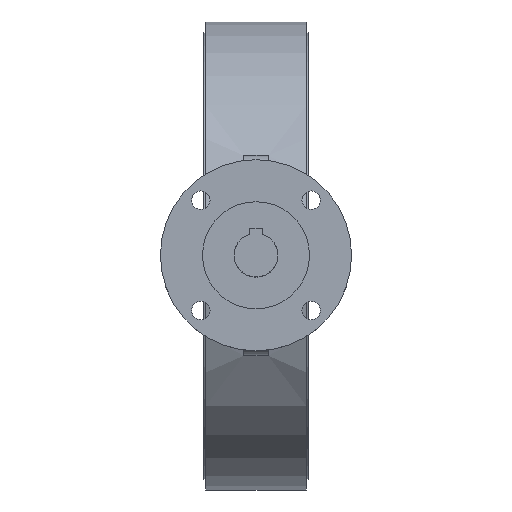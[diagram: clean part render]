
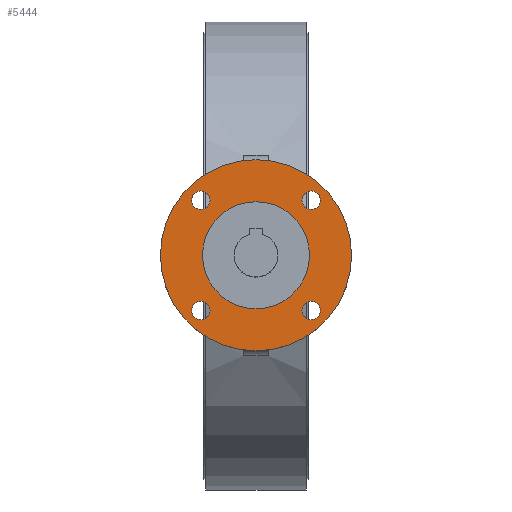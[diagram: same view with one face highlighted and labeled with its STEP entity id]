
A CAD part, top view. The second image highlights one B-rep face of the part: STEP entity #5444.
In plain terms, the highlighted planar face has unit normal (0, 0, 1).
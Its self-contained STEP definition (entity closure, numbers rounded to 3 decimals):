
#5444=ADVANCED_FACE('',(#11263,#11265,#11267,#11269,#11271,#11273),#11275,.T.);
#11263=FACE_BOUND('',#11264,.T.);
#11264=EDGE_LOOP('',(#16079));
#11265=FACE_BOUND('',#11266,.T.);
#11266=EDGE_LOOP('',(#16080));
#11267=FACE_BOUND('',#11268,.T.);
#11268=EDGE_LOOP('',(#16081));
#11269=FACE_BOUND('',#11270,.T.);
#11270=EDGE_LOOP('',(#16082));
#11271=FACE_BOUND('',#11272,.T.);
#11272=EDGE_LOOP('',(#16083));
#11273=FACE_BOUND('',#11274,.T.);
#11274=EDGE_LOOP('',(#16084));
#11275=PLANE('',#11276);
#11276=AXIS2_PLACEMENT_3D('',#11277,#11278,#11279);
#11277=CARTESIAN_POINT('',(0.,0.,270.));
#11278=DIRECTION('',(0.,0.,1.));
#11279=DIRECTION('',(0.,1.,0.));
#16079=ORIENTED_EDGE('',*,*,#18609,.F.);
#16080=ORIENTED_EDGE('',*,*,#18610,.T.);
#16081=ORIENTED_EDGE('',*,*,#18611,.T.);
#16082=ORIENTED_EDGE('',*,*,#18612,.T.);
#16083=ORIENTED_EDGE('',*,*,#18771,.T.);
#16084=ORIENTED_EDGE('',*,*,#18613,.T.);
#18609=EDGE_CURVE('',#21972,#21972,#21973,.T.);
#18610=EDGE_CURVE('',#21974,#21974,#21975,.F.);
#18611=EDGE_CURVE('',#21976,#21976,#21977,.F.);
#18612=EDGE_CURVE('',#21978,#21978,#21979,.F.);
#18613=EDGE_CURVE('',#21980,#21980,#21981,.F.);
#18771=EDGE_CURVE('',#22296,#22296,#22297,.T.);
#21972=VERTEX_POINT('',#30437);
#21973=CIRCLE('',#30438,62.5);
#21974=VERTEX_POINT('',#30442);
#21975=CIRCLE('',#30443,6.);
#21976=VERTEX_POINT('',#30447);
#21977=CIRCLE('',#30448,6.);
#21978=VERTEX_POINT('',#30452);
#21979=CIRCLE('',#30453,6.);
#21980=VERTEX_POINT('',#30457);
#21981=CIRCLE('',#30458,6.);
#22296=VERTEX_POINT('',#31283);
#22297=CIRCLE('',#31284,35.);
#30437=CARTESIAN_POINT('',(0.,62.5,270.));
#30438=AXIS2_PLACEMENT_3D('',#30439,#30440,#30441);
#30439=CARTESIAN_POINT('',(0.,0.,270.));
#30440=DIRECTION('',(0.,0.,-1.));
#30441=DIRECTION('',(0.,1.,0.));
#30442=CARTESIAN_POINT('',(-30.062,-36.062,270.));
#30443=AXIS2_PLACEMENT_3D('',#30444,#30445,#30446);
#30444=CARTESIAN_POINT('',(-36.062,-36.062,270.));
#30445=DIRECTION('',(0.,0.,1.));
#30446=DIRECTION('',(1.,0.,0.));
#30447=CARTESIAN_POINT('',(-36.062,30.062,270.));
#30448=AXIS2_PLACEMENT_3D('',#30449,#30450,#30451);
#30449=CARTESIAN_POINT('',(-36.062,36.062,270.));
#30450=DIRECTION('',(0.,0.,1.));
#30451=DIRECTION('',(0.,-1.,0.));
#30452=CARTESIAN_POINT('',(30.062,36.062,270.));
#30453=AXIS2_PLACEMENT_3D('',#30454,#30455,#30456);
#30454=CARTESIAN_POINT('',(36.062,36.062,270.));
#30455=DIRECTION('',(0.,0.,1.));
#30456=DIRECTION('',(-1.,0.,0.));
#30457=CARTESIAN_POINT('',(36.062,-30.062,270.));
#30458=AXIS2_PLACEMENT_3D('',#30459,#30460,#30461);
#30459=CARTESIAN_POINT('',(36.062,-36.062,270.));
#30460=DIRECTION('',(0.,0.,1.));
#30461=DIRECTION('',(0.,1.,0.));
#31283=CARTESIAN_POINT('',(0.,35.,270.));
#31284=AXIS2_PLACEMENT_3D('',#31285,#31286,#31287);
#31285=CARTESIAN_POINT('',(0.,0.,270.));
#31286=DIRECTION('',(0.,0.,-1.));
#31287=DIRECTION('',(0.,1.,0.));
